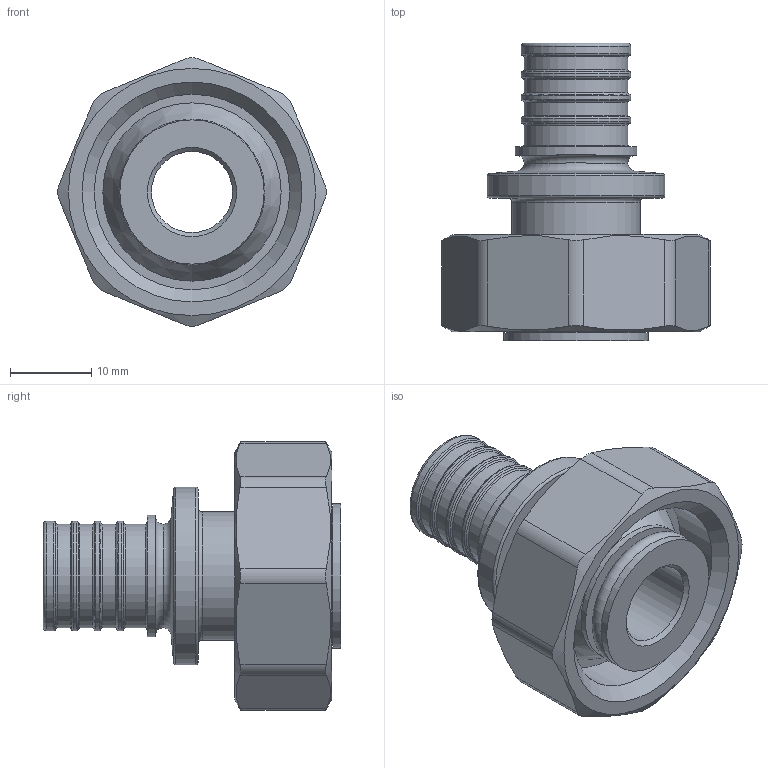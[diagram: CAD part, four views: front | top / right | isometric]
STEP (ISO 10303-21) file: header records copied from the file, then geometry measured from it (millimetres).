
FILE_DESCRIPTION(('STEP AP203'), '1');
FILE_NAME('ﾂﾐ.302612.014.000 ﾑﾁ - VTm.422.GE.001605 ﾔ頸. - 裝', '2024-01-23T13:25:19', ('User'), ('Vesta'), 'C3D Converter', 'C3D Toolkit', '');
FILE_SCHEMA(('CONFIG_CONTROL_DESIGN'));
Length unit declared in the file: millimetre
Products named in the file (5): ВР.302612.014.000 СБ; ВР.302612.014.001; ВР.714641.011; ВР.758421.028
Assembly tree (4 placements, depth 3):
  ВР.302612.014.000 СБ
    ВР.302612.014.001
      ВР.714641.011
      (unnamed)
    ВР.758421.028
Bounding box: 33.14 x 36.7 x 33.14 mm (x, y, z)
Volume: 9259.2 mm3; surface area: 7407.2 mm2
Topology: 3 solids, 3 shells, 77 faces, 159 edges, 94 vertices
Faces by surface type: cylinder 26, torus 24, plane 20, cone 7
Full cylindrical faces by diameter (mm): 10 x1, 12.8 x4, 13.5 x4, 14 x1, 15 x1, 15.8 x1, 17.8 x2, 21.9 x1, 22 x1, 24.118 x1, 24.2 x1
Entity records: 3131 total; most frequent: CARTESIAN_POINT 1474, DIRECTION 298, ORIENTED_EDGE 218, AXIS2_PLACEMENT_3D 141, EDGE_LOOP 136, EDGE_CURVE 109, FACE_OUTER_BOUND 94, VERTEX_POINT 93
